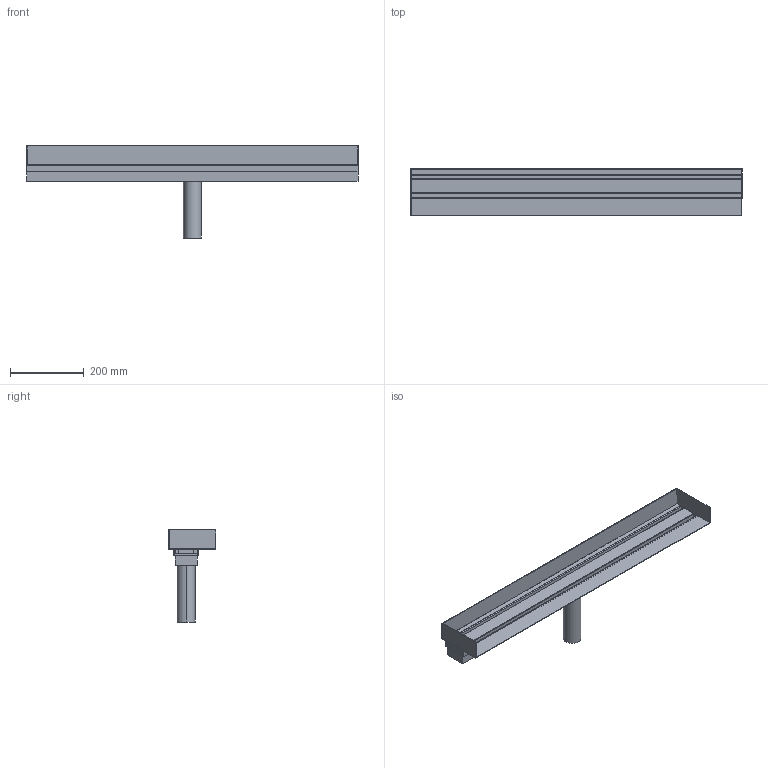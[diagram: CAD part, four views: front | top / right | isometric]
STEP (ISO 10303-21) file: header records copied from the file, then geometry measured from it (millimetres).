
FILE_DESCRIPTION(/* description */ (''),/* implementation_level */ '2;1');
FILE_NAME(/* name */ 'E:\Workspace\resitec\Packs\Kategorie\Entwässerungsrinne\STP\RS775KVDuschrinne verdeckt-3xZargeH+L+R-2xKRV.s.ipt.stp',/* time_stamp */ '2020-10-04T20:59:23+02:00',/* author */ ('ndmes'),/* organization */ (''),/* preprocessor_version */ 'ST-DEVELOPER v18.1',/* originating_system */ 'Autodesk Inventor 2021',/* authorisation */ '');
FILE_SCHEMA (('AUTOMOTIVE_DESIGN { 1 0 10303 214 3 1 1 }'));
Length unit declared in the file: millimetre
Products named in the file (1): RS775KVDuschrinne verdeckt-3xZargeH+L+R-2xKRV.s
Bounding box: 901.8 x 128 x 250 mm (x, y, z)
Volume: 2895381.9 mm3; surface area: 703629.3 mm2
Topology: 13 solids, 13 shells, 90 faces, 192 edges, 128 vertices
Faces by surface type: plane 82, cylinder 8
Entity records: 2421 total; most frequent: CARTESIAN_POINT 411, DIRECTION 390, ORIENTED_EDGE 384, EDGE_CURVE 192, LINE 176, VECTOR 176, VERTEX_POINT 128, AXIS2_PLACEMENT_3D 107
